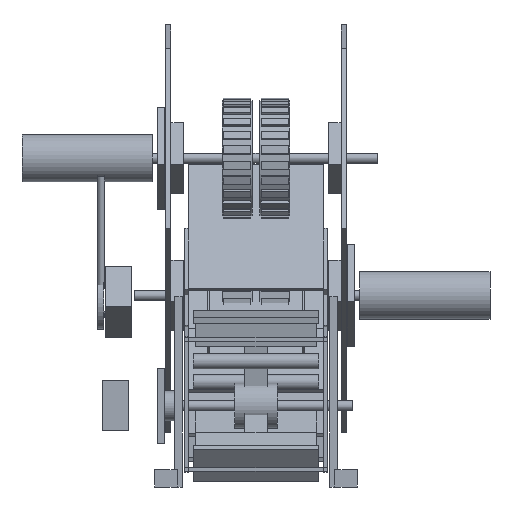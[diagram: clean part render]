
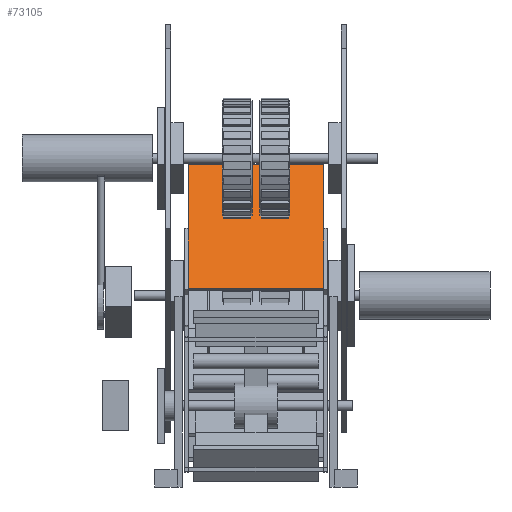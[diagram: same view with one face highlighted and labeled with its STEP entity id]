
A CAD part, left-side view. The second image highlights one B-rep face of the part: STEP entity #73105.
In plain terms, the highlighted planar face has unit normal (-0.788, 0, 0.616).
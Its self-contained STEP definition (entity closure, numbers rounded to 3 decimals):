
#72791 = VERTEX_POINT('',#72792);
#72792 = CARTESIAN_POINT('',(18.112,-54.,160.997));
#72799 = PLANE('',#72800);
#72800 = AXIS2_PLACEMENT_3D('',#72801,#72802,#72803);
#72801 = CARTESIAN_POINT('',(20.476,-54.,159.15));
#72802 = DIRECTION('',(0.616,0.,0.788));
#72803 = DIRECTION('',(-0.788,0.,0.616));
#72811 = PLANE('',#72812);
#72812 = AXIS2_PLACEMENT_3D('',#72813,#72814,#72815);
#72813 = CARTESIAN_POINT('',(20.476,-54.,159.15));
#72814 = DIRECTION('',(0.,1.,0.));
#72815 = DIRECTION('',(-0.788,0.,0.616));
#72852 = VERTEX_POINT('',#72853);
#72853 = CARTESIAN_POINT('',(18.112,54.,160.997));
#72867 = PLANE('',#72868);
#72868 = AXIS2_PLACEMENT_3D('',#72869,#72870,#72871);
#72869 = CARTESIAN_POINT('',(20.476,54.,159.15));
#72870 = DIRECTION('',(0.,1.,0.));
#72871 = DIRECTION('',(-0.788,0.,0.616));
#72879 = EDGE_CURVE('',#72791,#72852,#72880,.T.);
#72880 = SURFACE_CURVE('',#72881,(#72885,#72892),.PCURVE_S1.);
#72881 = LINE('',#72882,#72883);
#72882 = CARTESIAN_POINT('',(18.112,-54.,160.997));
#72883 = VECTOR('',#72884,1.);
#72884 = DIRECTION('',(0.,1.,0.));
#72885 = PCURVE('',#72799,#72886);
#72886 = DEFINITIONAL_REPRESENTATION('',(#72887),#72891);
#72887 = LINE('',#72888,#72889);
#72888 = CARTESIAN_POINT('',(3.,0.));
#72889 = VECTOR('',#72890,1.);
#72890 = DIRECTION('',(0.,-1.));
#72891 = ( GEOMETRIC_REPRESENTATION_CONTEXT(2) 
PARAMETRIC_REPRESENTATION_CONTEXT() REPRESENTATION_CONTEXT('2D SPACE',''
  ) );
#72892 = PCURVE('',#72893,#72898);
#72893 = PLANE('',#72894);
#72894 = AXIS2_PLACEMENT_3D('',#72895,#72896,#72897);
#72895 = CARTESIAN_POINT('',(18.112,-54.,160.997));
#72896 = DIRECTION('',(-0.788,0.,0.616));
#72897 = DIRECTION('',(0.616,0.,0.788));
#72898 = DEFINITIONAL_REPRESENTATION('',(#72899),#72903);
#72899 = LINE('',#72900,#72901);
#72900 = CARTESIAN_POINT('',(0.,0.));
#72901 = VECTOR('',#72902,1.);
#72902 = DIRECTION('',(0.,1.));
#72903 = ( GEOMETRIC_REPRESENTATION_CONTEXT(2) 
PARAMETRIC_REPRESENTATION_CONTEXT() REPRESENTATION_CONTEXT('2D SPACE',''
  ) );
#72911 = VERTEX_POINT('',#72912);
#72912 = CARTESIAN_POINT('',(95.069,-54.,259.499));
#72919 = PLANE('',#72920);
#72920 = AXIS2_PLACEMENT_3D('',#72921,#72922,#72923);
#72921 = CARTESIAN_POINT('',(97.433,-54.,257.652));
#72922 = DIRECTION('',(0.616,0.,0.788));
#72923 = DIRECTION('',(-0.788,0.,0.616));
#72962 = VERTEX_POINT('',#72963);
#72963 = CARTESIAN_POINT('',(95.069,54.,259.499));
#72984 = EDGE_CURVE('',#72911,#72962,#72985,.T.);
#72985 = SURFACE_CURVE('',#72986,(#72990,#72997),.PCURVE_S1.);
#72986 = LINE('',#72987,#72988);
#72987 = CARTESIAN_POINT('',(95.069,-54.,259.499));
#72988 = VECTOR('',#72989,1.);
#72989 = DIRECTION('',(0.,1.,0.));
#72990 = PCURVE('',#72919,#72991);
#72991 = DEFINITIONAL_REPRESENTATION('',(#72992),#72996);
#72992 = LINE('',#72993,#72994);
#72993 = CARTESIAN_POINT('',(3.,0.));
#72994 = VECTOR('',#72995,1.);
#72995 = DIRECTION('',(0.,-1.));
#72996 = ( GEOMETRIC_REPRESENTATION_CONTEXT(2) 
PARAMETRIC_REPRESENTATION_CONTEXT() REPRESENTATION_CONTEXT('2D SPACE',''
  ) );
#72997 = PCURVE('',#72893,#72998);
#72998 = DEFINITIONAL_REPRESENTATION('',(#72999),#73003);
#72999 = LINE('',#73000,#73001);
#73000 = CARTESIAN_POINT('',(125.,0.));
#73001 = VECTOR('',#73002,1.);
#73002 = DIRECTION('',(0.,1.));
#73003 = ( GEOMETRIC_REPRESENTATION_CONTEXT(2) 
PARAMETRIC_REPRESENTATION_CONTEXT() REPRESENTATION_CONTEXT('2D SPACE',''
  ) );
#73030 = EDGE_CURVE('',#72791,#72911,#73031,.T.);
#73031 = SURFACE_CURVE('',#73032,(#73036,#73043),.PCURVE_S1.);
#73032 = LINE('',#73033,#73034);
#73033 = CARTESIAN_POINT('',(18.112,-54.,160.997));
#73034 = VECTOR('',#73035,1.);
#73035 = DIRECTION('',(0.616,0.,0.788));
#73036 = PCURVE('',#72811,#73037);
#73037 = DEFINITIONAL_REPRESENTATION('',(#73038),#73042);
#73038 = LINE('',#73039,#73040);
#73039 = CARTESIAN_POINT('',(3.,0.));
#73040 = VECTOR('',#73041,1.);
#73041 = DIRECTION('',(0.,1.));
#73042 = ( GEOMETRIC_REPRESENTATION_CONTEXT(2) 
PARAMETRIC_REPRESENTATION_CONTEXT() REPRESENTATION_CONTEXT('2D SPACE',''
  ) );
#73043 = PCURVE('',#72893,#73044);
#73044 = DEFINITIONAL_REPRESENTATION('',(#73045),#73049);
#73045 = LINE('',#73046,#73047);
#73046 = CARTESIAN_POINT('',(0.,0.));
#73047 = VECTOR('',#73048,1.);
#73048 = DIRECTION('',(1.,0.));
#73049 = ( GEOMETRIC_REPRESENTATION_CONTEXT(2) 
PARAMETRIC_REPRESENTATION_CONTEXT() REPRESENTATION_CONTEXT('2D SPACE',''
  ) );
#73077 = EDGE_CURVE('',#72852,#72962,#73078,.T.);
#73078 = SURFACE_CURVE('',#73079,(#73083,#73090),.PCURVE_S1.);
#73079 = LINE('',#73080,#73081);
#73080 = CARTESIAN_POINT('',(18.112,54.,160.997));
#73081 = VECTOR('',#73082,1.);
#73082 = DIRECTION('',(0.616,0.,0.788));
#73083 = PCURVE('',#72867,#73084);
#73084 = DEFINITIONAL_REPRESENTATION('',(#73085),#73089);
#73085 = LINE('',#73086,#73087);
#73086 = CARTESIAN_POINT('',(3.,0.));
#73087 = VECTOR('',#73088,1.);
#73088 = DIRECTION('',(0.,1.));
#73089 = ( GEOMETRIC_REPRESENTATION_CONTEXT(2) 
PARAMETRIC_REPRESENTATION_CONTEXT() REPRESENTATION_CONTEXT('2D SPACE',''
  ) );
#73090 = PCURVE('',#72893,#73091);
#73091 = DEFINITIONAL_REPRESENTATION('',(#73092),#73096);
#73092 = LINE('',#73093,#73094);
#73093 = CARTESIAN_POINT('',(0.,108.));
#73094 = VECTOR('',#73095,1.);
#73095 = DIRECTION('',(1.,0.));
#73096 = ( GEOMETRIC_REPRESENTATION_CONTEXT(2) 
PARAMETRIC_REPRESENTATION_CONTEXT() REPRESENTATION_CONTEXT('2D SPACE',''
  ) );
#73105 = ADVANCED_FACE('',(#73106),#72893,.T.);
#73106 = FACE_BOUND('',#73107,.T.);
#73107 = EDGE_LOOP('',(#73108,#73109,#73110,#73111));
#73108 = ORIENTED_EDGE('',*,*,#72879,.F.);
#73109 = ORIENTED_EDGE('',*,*,#73030,.T.);
#73110 = ORIENTED_EDGE('',*,*,#72984,.T.);
#73111 = ORIENTED_EDGE('',*,*,#73077,.F.);
